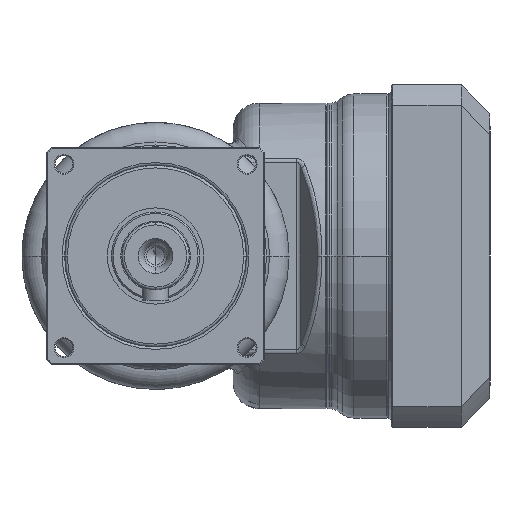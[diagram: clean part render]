
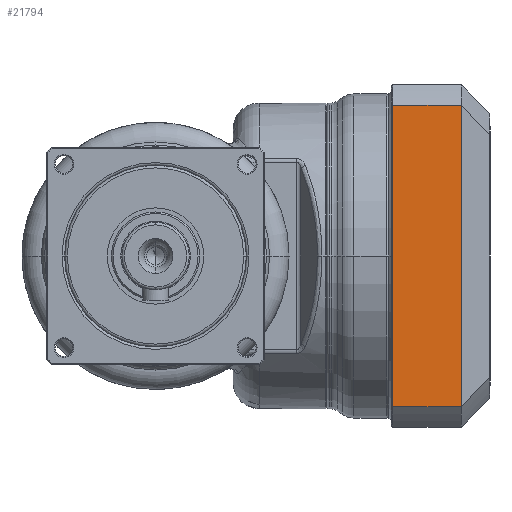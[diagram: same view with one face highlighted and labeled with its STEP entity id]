
A CAD part, left-side view. The second image highlights one B-rep face of the part: STEP entity #21794.
In plain terms, the highlighted planar face has unit normal (-1, 0, 0) as drawn and (0, -1, 0) by its records, which use the part's own axes.
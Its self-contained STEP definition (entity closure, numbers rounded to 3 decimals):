
#20548=DIRECTION('',(1.,0.,0.));
#20549=VECTOR('',#20548,58.207);
#20550=CARTESIAN_POINT('',(-29.103,-33.,15.5));
#20551=LINE('',#20550,#20549);
#20552=DIRECTION('',(0.,0.,1.));
#20553=VECTOR('',#20552,13.3);
#20554=CARTESIAN_POINT('',(29.103,-33.,
2.2));
#20555=LINE('',#20554,#20553);
#20556=DIRECTION('',(1.,0.,0.));
#20557=VECTOR('',#20556,58.207);
#20558=CARTESIAN_POINT('',(-29.103,-33.,
2.2));
#20559=LINE('',#20558,#20557);
#20560=DIRECTION('',(0.,0.,1.));
#20561=VECTOR('',#20560,13.3);
#20562=CARTESIAN_POINT('',(-29.103,-33.,
2.2));
#20563=LINE('',#20562,#20561);
#20569=CARTESIAN_POINT('',(29.103,-33.,15.5));
#20884=CARTESIAN_POINT('',(-29.103,-33.,2.2));
#20886=VERTEX_POINT('',#20884);
#20889=CARTESIAN_POINT('',(29.103,-33.,
2.2));
#20890=VERTEX_POINT('',#20889);
#20936=CARTESIAN_POINT('',(-29.103,-33.,15.5));
#20938=VERTEX_POINT('',#20936);
#20946=VERTEX_POINT('',#20569);
#21782=CARTESIAN_POINT('',(-33.,-33.,0.));
#21783=DIRECTION('',(0.,-1.,0.));
#21784=DIRECTION('',(1.,0.,0.));
#21785=AXIS2_PLACEMENT_3D('',#21782,#21783,#21784);
#21786=PLANE('',#21785);
#21788=ORIENTED_EDGE('',*,*,#21787,.T.);
#21789=ORIENTED_EDGE('',*,*,#21698,.F.);
#21790=ORIENTED_EDGE('',*,*,#21776,.F.);
#21791=ORIENTED_EDGE('',*,*,#21709,.T.);
#21792=EDGE_LOOP('',(#21788,#21789,#21790,#21791));
#21793=FACE_OUTER_BOUND('',#21792,.F.);
#21794=ADVANCED_FACE('',(#21793),#21786,.T.);
#21698=EDGE_CURVE('',#20890,#20946,#20555,.T.);
#21709=EDGE_CURVE('',#20886,#20938,#20563,.T.);
#21776=EDGE_CURVE('',#20886,#20890,#20559,.T.);
#21787=EDGE_CURVE('',#20938,#20946,#20551,.T.);
